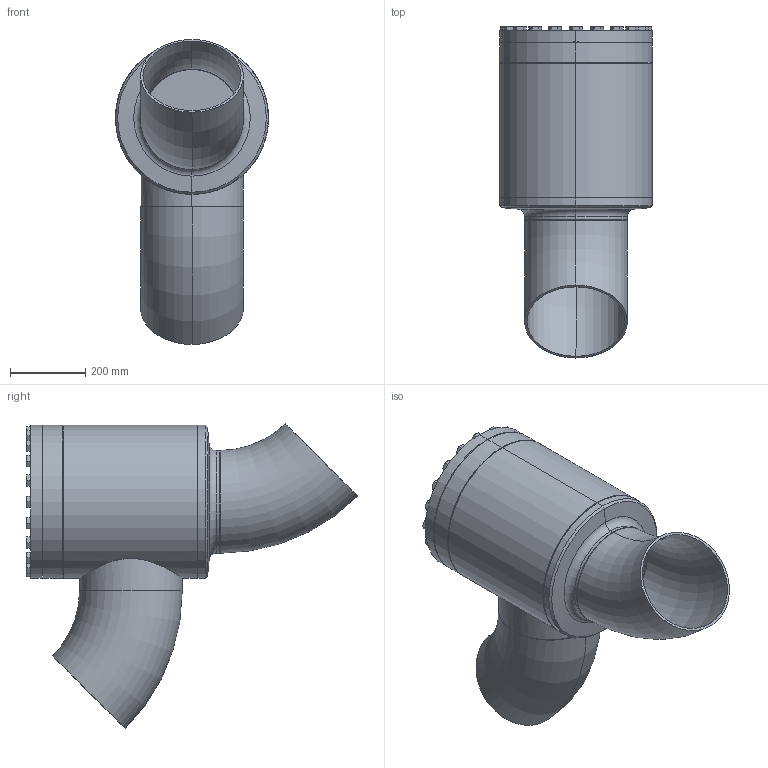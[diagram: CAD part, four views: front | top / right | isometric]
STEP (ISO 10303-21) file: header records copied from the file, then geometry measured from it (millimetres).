
FILE_DESCRIPTION (( 'STEP AP214' ), '1' );
FILE_NAME ('SS52300C24-DN250_R1_PS25.STEP', '2006-05-02T05:42:02', ( 'Herr Grams' ), ( 'AWP GmbH' ), 'SwSTEP 2.0', 'SolidWorks 2002296', '' );
FILE_SCHEMA (( 'AUTOMOTIVE_DESIGN' ));
Length unit declared in the file: millimetre
Products named in the file (14): SS52300C24-DN250_R1_PS25; Gehäuse-kpl26300-DN250_R1_Standard; Rohrstutzen-A26300-DN250_R1_Standard; Kopfstück26300-DN250_Standard; Boden26300-DN250_Standard; Gehäuse26300-DN250_Standard; bead-DN250-2_Standard; bead-DN250-1_Standard; Rohrbogen 45°_Rohrbogen-DN250-45°; bead-DN250-4_Standard; bead-DN250-3_Standard; SS52300B24_Deck+Schr-DN250_Standard; Deckel52300B24-DN250_Standard; Sechskantschraube-DIN933_M20x 60
Assembly tree (33 placements, depth 3):
  SS52300C24-DN250_R1_PS25
    SS52300B24_Deck+Schr-DN250_Standard
      Sechskantschraube-DIN933_M20x 60  x20
      Deckel52300B24-DN250_Standard
    Gehäuse-kpl26300-DN250_R1_Standard
      Rohrbogen 45°_Rohrbogen-DN250-45°  x2
      bead-DN250-4_Standard
      Kopfstück26300-DN250_Standard
      Gehäuse26300-DN250_Standard
      Rohrstutzen-A26300-DN250_R1_Standard
      bead-DN250-3_Standard
      Boden26300-DN250_Standard
      bead-DN250-1_Standard
      bead-DN250-2_Standard
Bounding box: 406.71 x 881.43 x 810.04 mm (x, y, z)
Volume: 23584388 mm3; surface area: 3225257 mm2
Topology: 31 solids, 31 shells, 633 faces, 1354 edges, 804 vertices
Faces by surface type: cone 292, plane 206, cylinder 109, bspline 16, torus 10
Entity records: 8044 total; most frequent: CARTESIAN_POINT 3642, DIRECTION 790, ORIENTED_EDGE 708, EDGE_CURVE 354, AXIS2_PLACEMENT_3D 348, VERTEX_POINT 226, EDGE_LOOP 214, CIRCLE 174
